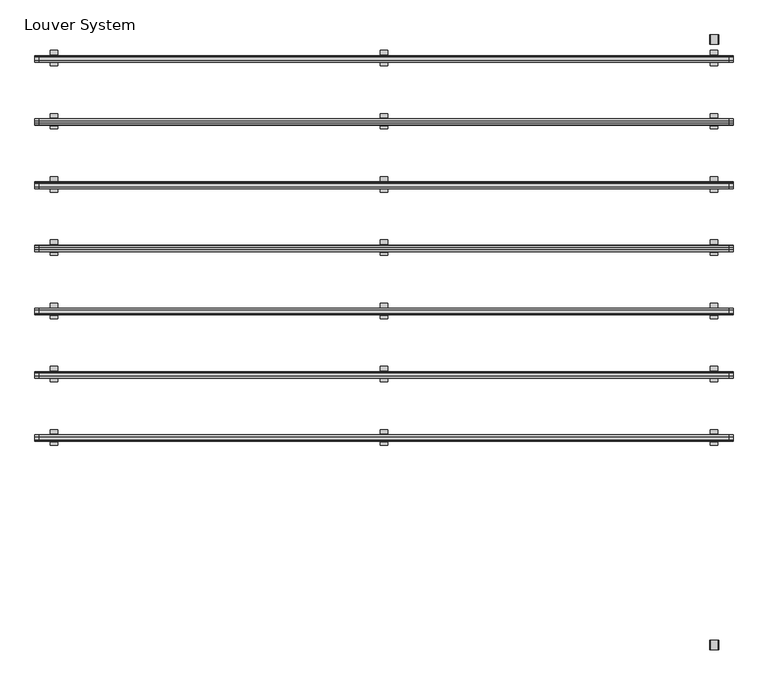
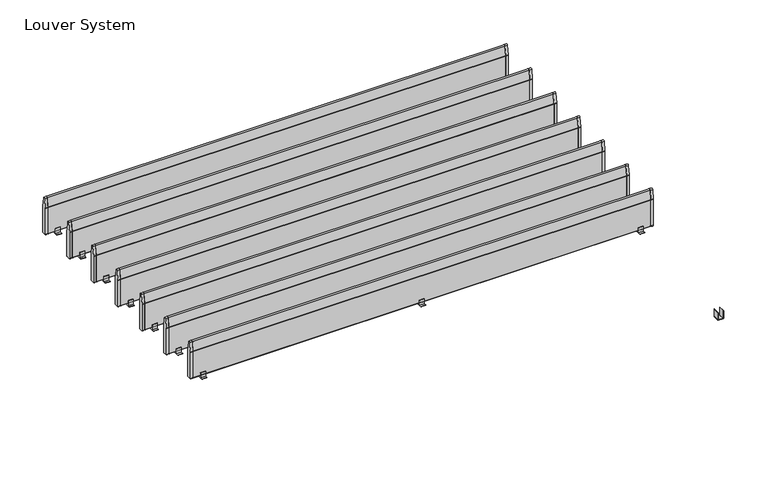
"""IFC4 building model written with IfcOpenShell, lengths in millimetres: geographic element geometry, Site_Danpal_AURA-Louvers : Louver System."""

from ifc_helpers import new_model, si_unit, point, frame, frame_2d, origin, place, context, project, spatial, polyline, circle_curve, trimmed, segment, composite_curve, outline, extrude, source, transform, mapped, element, save


def louver_system_eb25eb16(model_context):
    return source(origin(), model_context, "Body", "SweptSolid", [
        extrude(outline(polyline([(2118.4452933, 70.2377043), (2118.4452933, 112.7549354), (2119.8564736, 113.8288881), (2119.8564736, 87.8154527), (2154.9039104, 87.8154527), (2154.9039104, 114.4037008), (2156.6979773, 113.6522063), (2156.6979773, 73.9851105), (2156.6979773, 70.126602), (2182.4025997, 70.126602), (2182.4025997, 67.6050052), (2100.7242328, 67.6050052), (2100.7242328, 70.2377043), (2118.4452933, 70.2377043)])), frame((1730.0, 0.0, 0.0), z_axis=(1.0, 0.0, 0.0), x_axis=(0.0, 1.0, 0.0)), (0.0, 0.0, 1.0), 40.0),
        extrude(outline(polyline([(2118.4452933, 70.2377043), (2118.4452933, 112.7549354), (2119.8564736, 113.8288881), (2119.8564736, 87.8154527), (2154.9039104, 87.8154527), (2154.9039104, 114.4037008), (2156.6979773, 113.6522063), (2156.6979773, 73.9851105), (2156.6979773, 70.126602), (2182.4025997, 70.126602), (2182.4025997, 67.6050052), (2100.7242328, 67.6050052), (2100.7242328, 70.2377043), (2118.4452933, 70.2377043)])), frame((-20.0, 0.0, 0.0), z_axis=(1.0, 0.0, 0.0), x_axis=(0.0, 1.0, 0.0)), (0.0, 0.0, 1.0), 40.0),
        extrude(outline(polyline([(2118.4452933, 70.2377043), (2118.4452933, 112.7549354), (2119.8564736, 113.8288881), (2119.8564736, 87.8154527), (2154.9039104, 87.8154527), (2154.9039104, 114.4037008), (2156.6979773, 113.6522063), (2156.6979773, 73.9851105), (2156.6979773, 70.126602), (2182.4025997, 70.126602), (2182.4025997, 67.6050052), (2100.7242328, 67.6050052), (2100.7242328, 70.2377043), (2118.4452933, 70.2377043)])), frame((-1770.0, 0.0, 0.0), z_axis=(1.0, 0.0, 0.0), x_axis=(0.0, 1.0, 0.0)), (0.0, 0.0, 1.0), 40.0),
        extrude(outline(composite_curve([segment(polyline([(2154.9039104, 309.4391712), (2154.9039104, 90.2391712)]), True, "CONTINUOUS"), segment(trimmed(circle_curve(frame_2d((2152.480192, 90.2391712)), 2.4237184), [point((2154.9039104, 90.2391712))], [point((2152.480192, 87.8154527))], False, "CARTESIAN"), True, "CONTINUOUS"), segment(polyline([(2152.480192, 87.8154527), (2122.280192, 87.8154527)]), True, "CONTINUOUS"), segment(trimmed(circle_curve(frame_2d((2122.280192, 90.2391712)), 2.4237184), [point((2122.280192, 87.8154527))], [point((2119.8564736, 90.2391712))], False, "CARTESIAN"), True, "CONTINUOUS"), segment(polyline([(2119.8564736, 90.2391712), (2119.8564736, 309.4391712)]), True, "CONTINUOUS"), segment(trimmed(circle_curve(frame_2d((2152.480192, 309.4391712)), 32.6237184), [point((2119.8564736, 309.4391712))], [point((2120.1343539, 313.6881427))], False, "CARTESIAN"), True, "CONTINUOUS"), segment(polyline([(2120.1343539, 313.6881427), (2129.8214104, 387.4320979)]), True, "CONTINUOUS"), segment(trimmed(circle_curve(frame_2d((2137.380192, 386.4391712)), 7.6237184), [point((2129.8214104, 387.4320979))], [point((2144.9389736, 387.4320979))], False, "CARTESIAN"), True, "CONTINUOUS"), segment(polyline([(2144.9389736, 387.4320979), (2154.6260302, 313.6881427)]), True, "CONTINUOUS"), segment(trimmed(circle_curve(frame_2d((2122.280192, 309.4391712)), 32.6237184), [point((2154.6260302, 313.6881427))], [point((2154.9039104, 309.4391712))], False, "CARTESIAN"), True, "CONTINUOUS")], self_intersect=False)), frame((1829.9281148, 0.0, 0.0), z_axis=(1.0, 0.0, 0.0), x_axis=(0.0, 1.0, 0.0)), (0.0, 0.0, 1.0), 20.0718852),
        extrude(outline(composite_curve([segment(polyline([(2154.9039104, 309.4391712), (2154.9039104, 90.2391712)]), True, "CONTINUOUS"), segment(trimmed(circle_curve(frame_2d((2152.480192, 90.2391712)), 2.4237184), [point((2154.9039104, 90.2391712))], [point((2152.480192, 87.8154527))], False, "CARTESIAN"), True, "CONTINUOUS"), segment(polyline([(2152.480192, 87.8154527), (2122.280192, 87.8154527)]), True, "CONTINUOUS"), segment(trimmed(circle_curve(frame_2d((2122.280192, 90.2391712)), 2.4237184), [point((2122.280192, 87.8154527))], [point((2119.8564736, 90.2391712))], False, "CARTESIAN"), True, "CONTINUOUS"), segment(polyline([(2119.8564736, 90.2391712), (2119.8564736, 309.4391712)]), True, "CONTINUOUS"), segment(trimmed(circle_curve(frame_2d((2152.480192, 309.4391712)), 32.6237184), [point((2119.8564736, 309.4391712))], [point((2120.1343539, 313.6881427))], False, "CARTESIAN"), True, "CONTINUOUS"), segment(polyline([(2120.1343539, 313.6881427), (2129.8214104, 387.4320979)]), True, "CONTINUOUS"), segment(trimmed(circle_curve(frame_2d((2137.380192, 386.4391712)), 7.6237184), [point((2129.8214104, 387.4320979))], [point((2144.9389736, 387.4320979))], False, "CARTESIAN"), True, "CONTINUOUS"), segment(polyline([(2144.9389736, 387.4320979), (2154.6260302, 313.6881427)]), True, "CONTINUOUS"), segment(trimmed(circle_curve(frame_2d((2122.280192, 309.4391712)), 32.6237184), [point((2154.6260302, 313.6881427))], [point((2154.9039104, 309.4391712))], False, "CARTESIAN"), True, "CONTINUOUS")], self_intersect=False)), frame((-1850.0, 0.0, 0.0), z_axis=(1.0, 0.0, 0.0), x_axis=(0.0, 1.0, 0.0)), (0.0, 0.0, 1.0), 20.0),
        extrude(outline(composite_curve([segment(polyline([(2154.9039104, 309.4391712), (2154.9039104, 90.2391712)]), True, "CONTINUOUS"), segment(trimmed(circle_curve(frame_2d((2152.480192, 90.2391712)), 2.4237184), [point((2154.9039104, 90.2391712))], [point((2152.480192, 87.8154527))], False, "CARTESIAN"), True, "CONTINUOUS"), segment(polyline([(2152.480192, 87.8154527), (2122.280192, 87.8154527)]), True, "CONTINUOUS"), segment(trimmed(circle_curve(frame_2d((2122.280192, 90.2391712)), 2.4237184), [point((2122.280192, 87.8154527))], [point((2119.8564736, 90.2391712))], False, "CARTESIAN"), True, "CONTINUOUS"), segment(polyline([(2119.8564736, 90.2391712), (2119.8564736, 309.4391712)]), True, "CONTINUOUS"), segment(trimmed(circle_curve(frame_2d((2152.480192, 309.4391712)), 32.6237184), [point((2119.8564736, 309.4391712))], [point((2120.1343539, 313.6881427))], False, "CARTESIAN"), True, "CONTINUOUS"), segment(polyline([(2120.1343539, 313.6881427), (2129.8214104, 387.4320979)]), True, "CONTINUOUS"), segment(trimmed(circle_curve(frame_2d((2137.380192, 386.4391712)), 7.6237184), [point((2129.8214104, 387.4320979))], [point((2144.9389736, 387.4320979))], False, "CARTESIAN"), True, "CONTINUOUS"), segment(polyline([(2144.9389736, 387.4320979), (2154.6260302, 313.6881427)]), True, "CONTINUOUS"), segment(trimmed(circle_curve(frame_2d((2122.280192, 309.4391712)), 32.6237184), [point((2154.6260302, 313.6881427))], [point((2154.9039104, 309.4391712))], False, "CARTESIAN"), True, "CONTINUOUS")], self_intersect=False)), frame((-1830.0, 0.0, 0.0), z_axis=(1.0, 0.0, 0.0), x_axis=(0.0, 1.0, 0.0)), (0.0, 0.0, 1.0), 3659.9281148),
        extrude(outline(polyline([(1783.4452933, 70.2377043), (1783.4452933, 112.7549354), (1784.8564736, 113.8288881), (1784.8564736, 87.8154527), (1819.9039104, 87.8154527), (1819.9039104, 114.4037008), (1821.6979773, 113.6522063), (1821.6979773, 73.9851105), (1821.6979773, 70.126602), (1847.4025997, 70.126602), (1847.4025997, 67.6050052), (1765.7242328, 67.6050052), (1765.7242328, 70.2377043), (1783.4452933, 70.2377043)])), frame((1730.0, 0.0, 0.0), z_axis=(1.0, 0.0, 0.0), x_axis=(0.0, 1.0, 0.0)), (0.0, 0.0, 1.0), 40.0),
        extrude(outline(polyline([(1783.4452933, 70.2377043), (1783.4452933, 112.7549354), (1784.8564736, 113.8288881), (1784.8564736, 87.8154527), (1819.9039104, 87.8154527), (1819.9039104, 114.4037008), (1821.6979773, 113.6522063), (1821.6979773, 73.9851105), (1821.6979773, 70.126602), (1847.4025997, 70.126602), (1847.4025997, 67.6050052), (1765.7242328, 67.6050052), (1765.7242328, 70.2377043), (1783.4452933, 70.2377043)])), frame((-20.0, 0.0, 0.0), z_axis=(1.0, 0.0, 0.0), x_axis=(0.0, 1.0, 0.0)), (0.0, 0.0, 1.0), 40.0),
        extrude(outline(polyline([(1783.4452933, 70.2377043), (1783.4452933, 112.7549354), (1784.8564736, 113.8288881), (1784.8564736, 87.8154527), (1819.9039104, 87.8154527), (1819.9039104, 114.4037008), (1821.6979773, 113.6522063), (1821.6979773, 73.9851105), (1821.6979773, 70.126602), (1847.4025997, 70.126602), (1847.4025997, 67.6050052), (1765.7242328, 67.6050052), (1765.7242328, 70.2377043), (1783.4452933, 70.2377043)])), frame((-1770.0, 0.0, 0.0), z_axis=(1.0, 0.0, 0.0), x_axis=(0.0, 1.0, 0.0)), (0.0, 0.0, 1.0), 40.0),
        extrude(outline(composite_curve([segment(polyline([(1819.9039104, 309.4391712), (1819.9039104, 90.2391712)]), True, "CONTINUOUS"), segment(trimmed(circle_curve(frame_2d((1817.480192, 90.2391712)), 2.4237184), [point((1819.9039104, 90.2391712))], [point((1817.480192, 87.8154527))], False, "CARTESIAN"), True, "CONTINUOUS"), segment(polyline([(1817.480192, 87.8154527), (1787.280192, 87.8154527)]), True, "CONTINUOUS"), segment(trimmed(circle_curve(frame_2d((1787.280192, 90.2391712)), 2.4237184), [point((1787.280192, 87.8154527))], [point((1784.8564736, 90.2391712))], False, "CARTESIAN"), True, "CONTINUOUS"), segment(polyline([(1784.8564736, 90.2391712), (1784.8564736, 309.4391712)]), True, "CONTINUOUS"), segment(trimmed(circle_curve(frame_2d((1817.480192, 309.4391712)), 32.6237184), [point((1784.8564736, 309.4391712))], [point((1785.1343539, 313.6881427))], False, "CARTESIAN"), True, "CONTINUOUS"), segment(polyline([(1785.1343539, 313.6881427), (1794.8214104, 387.4320979)]), True, "CONTINUOUS"), segment(trimmed(circle_curve(frame_2d((1802.380192, 386.4391712)), 7.6237184), [point((1794.8214104, 387.4320979))], [point((1809.9389736, 387.4320979))], False, "CARTESIAN"), True, "CONTINUOUS"), segment(polyline([(1809.9389736, 387.4320979), (1819.6260302, 313.6881427)]), True, "CONTINUOUS"), segment(trimmed(circle_curve(frame_2d((1787.280192, 309.4391712)), 32.6237184), [point((1819.6260302, 313.6881427))], [point((1819.9039104, 309.4391712))], False, "CARTESIAN"), True, "CONTINUOUS")], self_intersect=False)), frame((1829.9281148, 0.0, 0.0), z_axis=(1.0, 0.0, 0.0), x_axis=(0.0, 1.0, 0.0)), (0.0, 0.0, 1.0), 20.0718852),
        extrude(outline(composite_curve([segment(polyline([(1819.9039104, 309.4391712), (1819.9039104, 90.2391712)]), True, "CONTINUOUS"), segment(trimmed(circle_curve(frame_2d((1817.480192, 90.2391712)), 2.4237184), [point((1819.9039104, 90.2391712))], [point((1817.480192, 87.8154527))], False, "CARTESIAN"), True, "CONTINUOUS"), segment(polyline([(1817.480192, 87.8154527), (1787.280192, 87.8154527)]), True, "CONTINUOUS"), segment(trimmed(circle_curve(frame_2d((1787.280192, 90.2391712)), 2.4237184), [point((1787.280192, 87.8154527))], [point((1784.8564736, 90.2391712))], False, "CARTESIAN"), True, "CONTINUOUS"), segment(polyline([(1784.8564736, 90.2391712), (1784.8564736, 309.4391712)]), True, "CONTINUOUS"), segment(trimmed(circle_curve(frame_2d((1817.480192, 309.4391712)), 32.6237184), [point((1784.8564736, 309.4391712))], [point((1785.1343539, 313.6881427))], False, "CARTESIAN"), True, "CONTINUOUS"), segment(polyline([(1785.1343539, 313.6881427), (1794.8214104, 387.4320979)]), True, "CONTINUOUS"), segment(trimmed(circle_curve(frame_2d((1802.380192, 386.4391712)), 7.6237184), [point((1794.8214104, 387.4320979))], [point((1809.9389736, 387.4320979))], False, "CARTESIAN"), True, "CONTINUOUS"), segment(polyline([(1809.9389736, 387.4320979), (1819.6260302, 313.6881427)]), True, "CONTINUOUS"), segment(trimmed(circle_curve(frame_2d((1787.280192, 309.4391712)), 32.6237184), [point((1819.6260302, 313.6881427))], [point((1819.9039104, 309.4391712))], False, "CARTESIAN"), True, "CONTINUOUS")], self_intersect=False)), frame((-1850.0, 0.0, 0.0), z_axis=(1.0, 0.0, 0.0), x_axis=(0.0, 1.0, 0.0)), (0.0, 0.0, 1.0), 20.0),
        extrude(outline(composite_curve([segment(polyline([(1819.9039104, 309.4391712), (1819.9039104, 90.2391712)]), True, "CONTINUOUS"), segment(trimmed(circle_curve(frame_2d((1817.480192, 90.2391712)), 2.4237184), [point((1819.9039104, 90.2391712))], [point((1817.480192, 87.8154527))], False, "CARTESIAN"), True, "CONTINUOUS"), segment(polyline([(1817.480192, 87.8154527), (1787.280192, 87.8154527)]), True, "CONTINUOUS"), segment(trimmed(circle_curve(frame_2d((1787.280192, 90.2391712)), 2.4237184), [point((1787.280192, 87.8154527))], [point((1784.8564736, 90.2391712))], False, "CARTESIAN"), True, "CONTINUOUS"), segment(polyline([(1784.8564736, 90.2391712), (1784.8564736, 309.4391712)]), True, "CONTINUOUS"), segment(trimmed(circle_curve(frame_2d((1817.480192, 309.4391712)), 32.6237184), [point((1784.8564736, 309.4391712))], [point((1785.1343539, 313.6881427))], False, "CARTESIAN"), True, "CONTINUOUS"), segment(polyline([(1785.1343539, 313.6881427), (1794.8214104, 387.4320979)]), True, "CONTINUOUS"), segment(trimmed(circle_curve(frame_2d((1802.380192, 386.4391712)), 7.6237184), [point((1794.8214104, 387.4320979))], [point((1809.9389736, 387.4320979))], False, "CARTESIAN"), True, "CONTINUOUS"), segment(polyline([(1809.9389736, 387.4320979), (1819.6260302, 313.6881427)]), True, "CONTINUOUS"), segment(trimmed(circle_curve(frame_2d((1787.280192, 309.4391712)), 32.6237184), [point((1819.6260302, 313.6881427))], [point((1819.9039104, 309.4391712))], False, "CARTESIAN"), True, "CONTINUOUS")], self_intersect=False)), frame((-1830.0, 0.0, 0.0), z_axis=(1.0, 0.0, 0.0), x_axis=(0.0, 1.0, 0.0)), (0.0, 0.0, 1.0), 3659.9281148),
        extrude(outline(polyline([(1448.4452933, 70.2377043), (1448.4452933, 112.7549354), (1449.8564736, 113.8288881), (1449.8564736, 87.8154527), (1484.9039104, 87.8154527), (1484.9039104, 114.4037008), (1486.6979773, 113.6522063), (1486.6979773, 73.9851105), (1486.6979773, 70.126602), (1512.4025997, 70.126602), (1512.4025997, 67.6050052), (1430.7242328, 67.6050052), (1430.7242328, 70.2377043), (1448.4452933, 70.2377043)])), frame((1730.0, 0.0, 0.0), z_axis=(1.0, 0.0, 0.0), x_axis=(0.0, 1.0, 0.0)), (0.0, 0.0, 1.0), 40.0),
        extrude(outline(polyline([(1448.4452933, 70.2377043), (1448.4452933, 112.7549354), (1449.8564736, 113.8288881), (1449.8564736, 87.8154527), (1484.9039104, 87.8154527), (1484.9039104, 114.4037008), (1486.6979773, 113.6522063), (1486.6979773, 73.9851105), (1486.6979773, 70.126602), (1512.4025997, 70.126602), (1512.4025997, 67.6050052), (1430.7242328, 67.6050052), (1430.7242328, 70.2377043), (1448.4452933, 70.2377043)])), frame((-20.0, 0.0, 0.0), z_axis=(1.0, 0.0, 0.0), x_axis=(0.0, 1.0, 0.0)), (0.0, 0.0, 1.0), 40.0),
        extrude(outline(polyline([(1448.4452933, 70.2377043), (1448.4452933, 112.7549354), (1449.8564736, 113.8288881), (1449.8564736, 87.8154527), (1484.9039104, 87.8154527), (1484.9039104, 114.4037008), (1486.6979773, 113.6522063), (1486.6979773, 73.9851105), (1486.6979773, 70.126602), (1512.4025997, 70.126602), (1512.4025997, 67.6050052), (1430.7242328, 67.6050052), (1430.7242328, 70.2377043), (1448.4452933, 70.2377043)])), frame((-1770.0, 0.0, 0.0), z_axis=(1.0, 0.0, 0.0), x_axis=(0.0, 1.0, 0.0)), (0.0, 0.0, 1.0), 40.0),
        extrude(outline(composite_curve([segment(polyline([(1484.9039104, 309.4391712), (1484.9039104, 90.2391712)]), True, "CONTINUOUS"), segment(trimmed(circle_curve(frame_2d((1482.480192, 90.2391712)), 2.4237184), [point((1484.9039104, 90.2391712))], [point((1482.480192, 87.8154527))], False, "CARTESIAN"), True, "CONTINUOUS"), segment(polyline([(1482.480192, 87.8154527), (1452.280192, 87.8154527)]), True, "CONTINUOUS"), segment(trimmed(circle_curve(frame_2d((1452.280192, 90.2391712)), 2.4237184), [point((1452.280192, 87.8154527))], [point((1449.8564736, 90.2391712))], False, "CARTESIAN"), True, "CONTINUOUS"), segment(polyline([(1449.8564736, 90.2391712), (1449.8564736, 309.4391712)]), True, "CONTINUOUS"), segment(trimmed(circle_curve(frame_2d((1482.480192, 309.4391712)), 32.6237184), [point((1449.8564736, 309.4391712))], [point((1450.1343539, 313.6881427))], False, "CARTESIAN"), True, "CONTINUOUS"), segment(polyline([(1450.1343539, 313.6881427), (1459.8214104, 387.4320979)]), True, "CONTINUOUS"), segment(trimmed(circle_curve(frame_2d((1467.380192, 386.4391712)), 7.6237184), [point((1459.8214104, 387.4320979))], [point((1474.9389736, 387.4320979))], False, "CARTESIAN"), True, "CONTINUOUS"), segment(polyline([(1474.9389736, 387.4320979), (1484.6260302, 313.6881427)]), True, "CONTINUOUS"), segment(trimmed(circle_curve(frame_2d((1452.280192, 309.4391712)), 32.6237184), [point((1484.6260302, 313.6881427))], [point((1484.9039104, 309.4391712))], False, "CARTESIAN"), True, "CONTINUOUS")], self_intersect=False)), frame((1829.9281148, 0.0, 0.0), z_axis=(1.0, 0.0, 0.0), x_axis=(0.0, 1.0, 0.0)), (0.0, 0.0, 1.0), 20.0718852),
        extrude(outline(composite_curve([segment(polyline([(1484.9039104, 309.4391712), (1484.9039104, 90.2391712)]), True, "CONTINUOUS"), segment(trimmed(circle_curve(frame_2d((1482.480192, 90.2391712)), 2.4237184), [point((1484.9039104, 90.2391712))], [point((1482.480192, 87.8154527))], False, "CARTESIAN"), True, "CONTINUOUS"), segment(polyline([(1482.480192, 87.8154527), (1452.280192, 87.8154527)]), True, "CONTINUOUS"), segment(trimmed(circle_curve(frame_2d((1452.280192, 90.2391712)), 2.4237184), [point((1452.280192, 87.8154527))], [point((1449.8564736, 90.2391712))], False, "CARTESIAN"), True, "CONTINUOUS"), segment(polyline([(1449.8564736, 90.2391712), (1449.8564736, 309.4391712)]), True, "CONTINUOUS"), segment(trimmed(circle_curve(frame_2d((1482.480192, 309.4391712)), 32.6237184), [point((1449.8564736, 309.4391712))], [point((1450.1343539, 313.6881427))], False, "CARTESIAN"), True, "CONTINUOUS"), segment(polyline([(1450.1343539, 313.6881427), (1459.8214104, 387.4320979)]), True, "CONTINUOUS"), segment(trimmed(circle_curve(frame_2d((1467.380192, 386.4391712)), 7.6237184), [point((1459.8214104, 387.4320979))], [point((1474.9389736, 387.4320979))], False, "CARTESIAN"), True, "CONTINUOUS"), segment(polyline([(1474.9389736, 387.4320979), (1484.6260302, 313.6881427)]), True, "CONTINUOUS"), segment(trimmed(circle_curve(frame_2d((1452.280192, 309.4391712)), 32.6237184), [point((1484.6260302, 313.6881427))], [point((1484.9039104, 309.4391712))], False, "CARTESIAN"), True, "CONTINUOUS")], self_intersect=False)), frame((-1850.0, 0.0, 0.0), z_axis=(1.0, 0.0, 0.0), x_axis=(0.0, 1.0, 0.0)), (0.0, 0.0, 1.0), 20.0),
        extrude(outline(composite_curve([segment(polyline([(1484.9039104, 309.4391712), (1484.9039104, 90.2391712)]), True, "CONTINUOUS"), segment(trimmed(circle_curve(frame_2d((1482.480192, 90.2391712)), 2.4237184), [point((1484.9039104, 90.2391712))], [point((1482.480192, 87.8154527))], False, "CARTESIAN"), True, "CONTINUOUS"), segment(polyline([(1482.480192, 87.8154527), (1452.280192, 87.8154527)]), True, "CONTINUOUS"), segment(trimmed(circle_curve(frame_2d((1452.280192, 90.2391712)), 2.4237184), [point((1452.280192, 87.8154527))], [point((1449.8564736, 90.2391712))], False, "CARTESIAN"), True, "CONTINUOUS"), segment(polyline([(1449.8564736, 90.2391712), (1449.8564736, 309.4391712)]), True, "CONTINUOUS"), segment(trimmed(circle_curve(frame_2d((1482.480192, 309.4391712)), 32.6237184), [point((1449.8564736, 309.4391712))], [point((1450.1343539, 313.6881427))], False, "CARTESIAN"), True, "CONTINUOUS"), segment(polyline([(1450.1343539, 313.6881427), (1459.8214104, 387.4320979)]), True, "CONTINUOUS"), segment(trimmed(circle_curve(frame_2d((1467.380192, 386.4391712)), 7.6237184), [point((1459.8214104, 387.4320979))], [point((1474.9389736, 387.4320979))], False, "CARTESIAN"), True, "CONTINUOUS"), segment(polyline([(1474.9389736, 387.4320979), (1484.6260302, 313.6881427)]), True, "CONTINUOUS"), segment(trimmed(circle_curve(frame_2d((1452.280192, 309.4391712)), 32.6237184), [point((1484.6260302, 313.6881427))], [point((1484.9039104, 309.4391712))], False, "CARTESIAN"), True, "CONTINUOUS")], self_intersect=False)), frame((-1830.0, 0.0, 0.0), z_axis=(1.0, 0.0, 0.0), x_axis=(0.0, 1.0, 0.0)), (0.0, 0.0, 1.0), 3659.9281148),
        extrude(outline(polyline([(1113.4452933, 70.2377043), (1113.4452933, 112.7549354), (1114.8564736, 113.8288881), (1114.8564736, 87.8154527), (1149.9039104, 87.8154527), (1149.9039104, 114.4037008), (1151.6979773, 113.6522063), (1151.6979773, 73.9851105), (1151.6979773, 70.126602), (1177.4025997, 70.126602), (1177.4025997, 67.6050052), (1095.7242328, 67.6050052), (1095.7242328, 70.2377043), (1113.4452933, 70.2377043)])), frame((1730.0, 0.0, 0.0), z_axis=(1.0, 0.0, 0.0), x_axis=(0.0, 1.0, 0.0)), (0.0, 0.0, 1.0), 40.0),
        extrude(outline(polyline([(1113.4452933, 70.2377043), (1113.4452933, 112.7549354), (1114.8564736, 113.8288881), (1114.8564736, 87.8154527), (1149.9039104, 87.8154527), (1149.9039104, 114.4037008), (1151.6979773, 113.6522063), (1151.6979773, 73.9851105), (1151.6979773, 70.126602), (1177.4025997, 70.126602), (1177.4025997, 67.6050052), (1095.7242328, 67.6050052), (1095.7242328, 70.2377043), (1113.4452933, 70.2377043)])), frame((-20.0, 0.0, 0.0), z_axis=(1.0, 0.0, 0.0), x_axis=(0.0, 1.0, 0.0)), (0.0, 0.0, 1.0), 40.0),
        extrude(outline(polyline([(1113.4452933, 70.2377043), (1113.4452933, 112.7549354), (1114.8564736, 113.8288881), (1114.8564736, 87.8154527), (1149.9039104, 87.8154527), (1149.9039104, 114.4037008), (1151.6979773, 113.6522063), (1151.6979773, 73.9851105), (1151.6979773, 70.126602), (1177.4025997, 70.126602), (1177.4025997, 67.6050052), (1095.7242328, 67.6050052), (1095.7242328, 70.2377043), (1113.4452933, 70.2377043)])), frame((-1770.0, 0.0, 0.0), z_axis=(1.0, 0.0, 0.0), x_axis=(0.0, 1.0, 0.0)), (0.0, 0.0, 1.0), 40.0),
        extrude(outline(composite_curve([segment(polyline([(1149.9039104, 309.4391712), (1149.9039104, 90.2391712)]), True, "CONTINUOUS"), segment(trimmed(circle_curve(frame_2d((1147.480192, 90.2391712)), 2.4237184), [point((1149.9039104, 90.2391712))], [point((1147.480192, 87.8154527))], False, "CARTESIAN"), True, "CONTINUOUS"), segment(polyline([(1147.480192, 87.8154527), (1117.280192, 87.8154527)]), True, "CONTINUOUS"), segment(trimmed(circle_curve(frame_2d((1117.280192, 90.2391712)), 2.4237184), [point((1117.280192, 87.8154527))], [point((1114.8564736, 90.2391712))], False, "CARTESIAN"), True, "CONTINUOUS"), segment(polyline([(1114.8564736, 90.2391712), (1114.8564736, 309.4391712)]), True, "CONTINUOUS"), segment(trimmed(circle_curve(frame_2d((1147.480192, 309.4391712)), 32.6237184), [point((1114.8564736, 309.4391712))], [point((1115.1343539, 313.6881427))], False, "CARTESIAN"), True, "CONTINUOUS"), segment(polyline([(1115.1343539, 313.6881427), (1124.8214104, 387.4320979)]), True, "CONTINUOUS"), segment(trimmed(circle_curve(frame_2d((1132.380192, 386.4391712)), 7.6237184), [point((1124.8214104, 387.4320979))], [point((1139.9389736, 387.4320979))], False, "CARTESIAN"), True, "CONTINUOUS"), segment(polyline([(1139.9389736, 387.4320979), (1149.6260302, 313.6881427)]), True, "CONTINUOUS"), segment(trimmed(circle_curve(frame_2d((1117.280192, 309.4391712)), 32.6237184), [point((1149.6260302, 313.6881427))], [point((1149.9039104, 309.4391712))], False, "CARTESIAN"), True, "CONTINUOUS")], self_intersect=False)), frame((1829.9281148, 0.0, 0.0), z_axis=(1.0, 0.0, 0.0), x_axis=(0.0, 1.0, 0.0)), (0.0, 0.0, 1.0), 20.0718852),
        extrude(outline(composite_curve([segment(polyline([(1149.9039104, 309.4391712), (1149.9039104, 90.2391712)]), True, "CONTINUOUS"), segment(trimmed(circle_curve(frame_2d((1147.480192, 90.2391712)), 2.4237184), [point((1149.9039104, 90.2391712))], [point((1147.480192, 87.8154527))], False, "CARTESIAN"), True, "CONTINUOUS"), segment(polyline([(1147.480192, 87.8154527), (1117.280192, 87.8154527)]), True, "CONTINUOUS"), segment(trimmed(circle_curve(frame_2d((1117.280192, 90.2391712)), 2.4237184), [point((1117.280192, 87.8154527))], [point((1114.8564736, 90.2391712))], False, "CARTESIAN"), True, "CONTINUOUS"), segment(polyline([(1114.8564736, 90.2391712), (1114.8564736, 309.4391712)]), True, "CONTINUOUS"), segment(trimmed(circle_curve(frame_2d((1147.480192, 309.4391712)), 32.6237184), [point((1114.8564736, 309.4391712))], [point((1115.1343539, 313.6881427))], False, "CARTESIAN"), True, "CONTINUOUS"), segment(polyline([(1115.1343539, 313.6881427), (1124.8214104, 387.4320979)]), True, "CONTINUOUS"), segment(trimmed(circle_curve(frame_2d((1132.380192, 386.4391712)), 7.6237184), [point((1124.8214104, 387.4320979))], [point((1139.9389736, 387.4320979))], False, "CARTESIAN"), True, "CONTINUOUS"), segment(polyline([(1139.9389736, 387.4320979), (1149.6260302, 313.6881427)]), True, "CONTINUOUS"), segment(trimmed(circle_curve(frame_2d((1117.280192, 309.4391712)), 32.6237184), [point((1149.6260302, 313.6881427))], [point((1149.9039104, 309.4391712))], False, "CARTESIAN"), True, "CONTINUOUS")], self_intersect=False)), frame((-1850.0, 0.0, 0.0), z_axis=(1.0, 0.0, 0.0), x_axis=(0.0, 1.0, 0.0)), (0.0, 0.0, 1.0), 20.0),
        extrude(outline(composite_curve([segment(polyline([(1149.9039104, 309.4391712), (1149.9039104, 90.2391712)]), True, "CONTINUOUS"), segment(trimmed(circle_curve(frame_2d((1147.480192, 90.2391712)), 2.4237184), [point((1149.9039104, 90.2391712))], [point((1147.480192, 87.8154527))], False, "CARTESIAN"), True, "CONTINUOUS"), segment(polyline([(1147.480192, 87.8154527), (1117.280192, 87.8154527)]), True, "CONTINUOUS"), segment(trimmed(circle_curve(frame_2d((1117.280192, 90.2391712)), 2.4237184), [point((1117.280192, 87.8154527))], [point((1114.8564736, 90.2391712))], False, "CARTESIAN"), True, "CONTINUOUS"), segment(polyline([(1114.8564736, 90.2391712), (1114.8564736, 309.4391712)]), True, "CONTINUOUS"), segment(trimmed(circle_curve(frame_2d((1147.480192, 309.4391712)), 32.6237184), [point((1114.8564736, 309.4391712))], [point((1115.1343539, 313.6881427))], False, "CARTESIAN"), True, "CONTINUOUS"), segment(polyline([(1115.1343539, 313.6881427), (1124.8214104, 387.4320979)]), True, "CONTINUOUS"), segment(trimmed(circle_curve(frame_2d((1132.380192, 386.4391712)), 7.6237184), [point((1124.8214104, 387.4320979))], [point((1139.9389736, 387.4320979))], False, "CARTESIAN"), True, "CONTINUOUS"), segment(polyline([(1139.9389736, 387.4320979), (1149.6260302, 313.6881427)]), True, "CONTINUOUS"), segment(trimmed(circle_curve(frame_2d((1117.280192, 309.4391712)), 32.6237184), [point((1149.6260302, 313.6881427))], [point((1149.9039104, 309.4391712))], False, "CARTESIAN"), True, "CONTINUOUS")], self_intersect=False)), frame((-1830.0, 0.0, 0.0), z_axis=(1.0, 0.0, 0.0), x_axis=(0.0, 1.0, 0.0)), (0.0, 0.0, 1.0), 3659.9281148),
        extrude(outline(polyline([(778.4452933, 70.2377043), (778.4452933, 112.7549354), (779.8564736, 113.8288881), (779.8564736, 87.8154527), (814.9039104, 87.8154527), (814.9039104, 114.4037008), (816.6979773, 113.6522063), (816.6979773, 73.9851105), (816.6979773, 70.126602), (842.4025997, 70.126602), (842.4025997, 67.6050052), (760.7242328, 67.6050052), (760.7242328, 70.2377043), (778.4452933, 70.2377043)])), frame((1730.0, 0.0, 0.0), z_axis=(1.0, 0.0, 0.0), x_axis=(0.0, 1.0, 0.0)), (0.0, 0.0, 1.0), 40.0),
        extrude(outline(polyline([(778.4452933, 70.2377043), (778.4452933, 112.7549354), (779.8564736, 113.8288881), (779.8564736, 87.8154527), (814.9039104, 87.8154527), (814.9039104, 114.4037008), (816.6979773, 113.6522063), (816.6979773, 73.9851105), (816.6979773, 70.126602), (842.4025997, 70.126602), (842.4025997, 67.6050052), (760.7242328, 67.6050052), (760.7242328, 70.2377043), (778.4452933, 70.2377043)])), frame((-20.0, 0.0, 0.0), z_axis=(1.0, 0.0, 0.0), x_axis=(0.0, 1.0, 0.0)), (0.0, 0.0, 1.0), 40.0),
        extrude(outline(polyline([(778.4452933, 70.2377043), (778.4452933, 112.7549354), (779.8564736, 113.8288881), (779.8564736, 87.8154527), (814.9039104, 87.8154527), (814.9039104, 114.4037008), (816.6979773, 113.6522063), (816.6979773, 73.9851105), (816.6979773, 70.126602), (842.4025997, 70.126602), (842.4025997, 67.6050052), (760.7242328, 67.6050052), (760.7242328, 70.2377043), (778.4452933, 70.2377043)])), frame((-1770.0, 0.0, 0.0), z_axis=(1.0, 0.0, 0.0), x_axis=(0.0, 1.0, 0.0)), (0.0, 0.0, 1.0), 40.0),
        extrude(outline(composite_curve([segment(polyline([(814.9039104, 309.4391712), (814.9039104, 90.2391712)]), True, "CONTINUOUS"), segment(trimmed(circle_curve(frame_2d((812.480192, 90.2391712)), 2.4237184), [point((814.9039104, 90.2391712))], [point((812.480192, 87.8154527))], False, "CARTESIAN"), True, "CONTINUOUS"), segment(polyline([(812.480192, 87.8154527), (782.280192, 87.8154527)]), True, "CONTINUOUS"), segment(trimmed(circle_curve(frame_2d((782.280192, 90.2391712)), 2.4237184), [point((782.280192, 87.8154527))], [point((779.8564736, 90.2391712))], False, "CARTESIAN"), True, "CONTINUOUS"), segment(polyline([(779.8564736, 90.2391712), (779.8564736, 309.4391712)]), True, "CONTINUOUS"), segment(trimmed(circle_curve(frame_2d((812.480192, 309.4391712)), 32.6237184), [point((779.8564736, 309.4391712))], [point((780.1343539, 313.6881427))], False, "CARTESIAN"), True, "CONTINUOUS"), segment(polyline([(780.1343539, 313.6881427), (789.8214104, 387.4320979)]), True, "CONTINUOUS"), segment(trimmed(circle_curve(frame_2d((797.380192, 386.4391712)), 7.6237184), [point((789.8214104, 387.4320979))], [point((804.9389736, 387.4320979))], False, "CARTESIAN"), True, "CONTINUOUS"), segment(polyline([(804.9389736, 387.4320979), (814.6260302, 313.6881427)]), True, "CONTINUOUS"), segment(trimmed(circle_curve(frame_2d((782.280192, 309.4391712)), 32.6237184), [point((814.6260302, 313.6881427))], [point((814.9039104, 309.4391712))], False, "CARTESIAN"), True, "CONTINUOUS")], self_intersect=False)), frame((1829.9281148, 0.0, 0.0), z_axis=(1.0, 0.0, 0.0), x_axis=(0.0, 1.0, 0.0)), (0.0, 0.0, 1.0), 20.0718852),
        extrude(outline(composite_curve([segment(polyline([(814.9039104, 309.4391712), (814.9039104, 90.2391712)]), True, "CONTINUOUS"), segment(trimmed(circle_curve(frame_2d((812.480192, 90.2391712)), 2.4237184), [point((814.9039104, 90.2391712))], [point((812.480192, 87.8154527))], False, "CARTESIAN"), True, "CONTINUOUS"), segment(polyline([(812.480192, 87.8154527), (782.280192, 87.8154527)]), True, "CONTINUOUS"), segment(trimmed(circle_curve(frame_2d((782.280192, 90.2391712)), 2.4237184), [point((782.280192, 87.8154527))], [point((779.8564736, 90.2391712))], False, "CARTESIAN"), True, "CONTINUOUS"), segment(polyline([(779.8564736, 90.2391712), (779.8564736, 309.4391712)]), True, "CONTINUOUS"), segment(trimmed(circle_curve(frame_2d((812.480192, 309.4391712)), 32.6237184), [point((779.8564736, 309.4391712))], [point((780.1343539, 313.6881427))], False, "CARTESIAN"), True, "CONTINUOUS"), segment(polyline([(780.1343539, 313.6881427), (789.8214104, 387.4320979)]), True, "CONTINUOUS"), segment(trimmed(circle_curve(frame_2d((797.380192, 386.4391712)), 7.6237184), [point((789.8214104, 387.4320979))], [point((804.9389736, 387.4320979))], False, "CARTESIAN"), True, "CONTINUOUS"), segment(polyline([(804.9389736, 387.4320979), (814.6260302, 313.6881427)]), True, "CONTINUOUS"), segment(trimmed(circle_curve(frame_2d((782.280192, 309.4391712)), 32.6237184), [point((814.6260302, 313.6881427))], [point((814.9039104, 309.4391712))], False, "CARTESIAN"), True, "CONTINUOUS")], self_intersect=False)), frame((-1850.0, 0.0, 0.0), z_axis=(1.0, 0.0, 0.0), x_axis=(0.0, 1.0, 0.0)), (0.0, 0.0, 1.0), 20.0),
        extrude(outline(composite_curve([segment(polyline([(814.9039104, 309.4391712), (814.9039104, 90.2391712)]), True, "CONTINUOUS"), segment(trimmed(circle_curve(frame_2d((812.480192, 90.2391712)), 2.4237184), [point((814.9039104, 90.2391712))], [point((812.480192, 87.8154527))], False, "CARTESIAN"), True, "CONTINUOUS"), segment(polyline([(812.480192, 87.8154527), (782.280192, 87.8154527)]), True, "CONTINUOUS"), segment(trimmed(circle_curve(frame_2d((782.280192, 90.2391712)), 2.4237184), [point((782.280192, 87.8154527))], [point((779.8564736, 90.2391712))], False, "CARTESIAN"), True, "CONTINUOUS"), segment(polyline([(779.8564736, 90.2391712), (779.8564736, 309.4391712)]), True, "CONTINUOUS"), segment(trimmed(circle_curve(frame_2d((812.480192, 309.4391712)), 32.6237184), [point((779.8564736, 309.4391712))], [point((780.1343539, 313.6881427))], False, "CARTESIAN"), True, "CONTINUOUS"), segment(polyline([(780.1343539, 313.6881427), (789.8214104, 387.4320979)]), True, "CONTINUOUS"), segment(trimmed(circle_curve(frame_2d((797.380192, 386.4391712)), 7.6237184), [point((789.8214104, 387.4320979))], [point((804.9389736, 387.4320979))], False, "CARTESIAN"), True, "CONTINUOUS"), segment(polyline([(804.9389736, 387.4320979), (814.6260302, 313.6881427)]), True, "CONTINUOUS"), segment(trimmed(circle_curve(frame_2d((782.280192, 309.4391712)), 32.6237184), [point((814.6260302, 313.6881427))], [point((814.9039104, 309.4391712))], False, "CARTESIAN"), True, "CONTINUOUS")], self_intersect=False)), frame((-1830.0, 0.0, 0.0), z_axis=(1.0, 0.0, 0.0), x_axis=(0.0, 1.0, 0.0)), (0.0, 0.0, 1.0), 3659.9281148),
        extrude(outline(polyline([(443.4452933, 70.2377043), (443.4452933, 112.7549354), (444.8564736, 113.8288881), (444.8564736, 87.8154527), (479.9039104, 87.8154527), (479.9039104, 114.4037008), (481.6979773, 113.6522063), (481.6979773, 73.9851105), (481.6979773, 70.126602), (507.4025997, 70.126602), (507.4025997, 67.6050052), (425.7242328, 67.6050052), (425.7242328, 70.2377043), (443.4452933, 70.2377043)])), frame((1730.0, 0.0, 0.0), z_axis=(1.0, 0.0, 0.0), x_axis=(0.0, 1.0, 0.0)), (0.0, 0.0, 1.0), 40.0),
        extrude(outline(polyline([(443.4452933, 70.2377043), (443.4452933, 112.7549354), (444.8564736, 113.8288881), (444.8564736, 87.8154527), (479.9039104, 87.8154527), (479.9039104, 114.4037008), (481.6979773, 113.6522063), (481.6979773, 73.9851105), (481.6979773, 70.126602), (507.4025997, 70.126602), (507.4025997, 67.6050052), (425.7242328, 67.6050052), (425.7242328, 70.2377043), (443.4452933, 70.2377043)])), frame((-20.0, 0.0, 0.0), z_axis=(1.0, 0.0, 0.0), x_axis=(0.0, 1.0, 0.0)), (0.0, 0.0, 1.0), 40.0),
        extrude(outline(polyline([(443.4452933, 70.2377043), (443.4452933, 112.7549354), (444.8564736, 113.8288881), (444.8564736, 87.8154527), (479.9039104, 87.8154527), (479.9039104, 114.4037008), (481.6979773, 113.6522063), (481.6979773, 73.9851105), (481.6979773, 70.126602), (507.4025997, 70.126602), (507.4025997, 67.6050052), (425.7242328, 67.6050052), (425.7242328, 70.2377043), (443.4452933, 70.2377043)])), frame((-1770.0, 0.0, 0.0), z_axis=(1.0, 0.0, 0.0), x_axis=(0.0, 1.0, 0.0)), (0.0, 0.0, 1.0), 40.0),
        extrude(outline(composite_curve([segment(polyline([(479.9039104, 309.4391712), (479.9039104, 90.2391712)]), True, "CONTINUOUS"), segment(trimmed(circle_curve(frame_2d((477.480192, 90.2391712)), 2.4237184), [point((479.9039104, 90.2391712))], [point((477.480192, 87.8154527))], False, "CARTESIAN"), True, "CONTINUOUS"), segment(polyline([(477.480192, 87.8154527), (447.280192, 87.8154527)]), True, "CONTINUOUS"), segment(trimmed(circle_curve(frame_2d((447.280192, 90.2391712)), 2.4237184), [point((447.280192, 87.8154527))], [point((444.8564736, 90.2391712))], False, "CARTESIAN"), True, "CONTINUOUS"), segment(polyline([(444.8564736, 90.2391712), (444.8564736, 309.4391712)]), True, "CONTINUOUS"), segment(trimmed(circle_curve(frame_2d((477.480192, 309.4391712)), 32.6237184), [point((444.8564736, 309.4391712))], [point((445.1343539, 313.6881427))], False, "CARTESIAN"), True, "CONTINUOUS"), segment(polyline([(445.1343539, 313.6881427), (454.8214104, 387.4320979)]), True, "CONTINUOUS"), segment(trimmed(circle_curve(frame_2d((462.380192, 386.4391712)), 7.6237184), [point((454.8214104, 387.4320979))], [point((469.9389736, 387.4320979))], False, "CARTESIAN"), True, "CONTINUOUS"), segment(polyline([(469.9389736, 387.4320979), (479.6260302, 313.6881427)]), True, "CONTINUOUS"), segment(trimmed(circle_curve(frame_2d((447.280192, 309.4391712)), 32.6237184), [point((479.6260302, 313.6881427))], [point((479.9039104, 309.4391712))], False, "CARTESIAN"), True, "CONTINUOUS")], self_intersect=False)), frame((1829.9281148, 0.0, 0.0), z_axis=(1.0, 0.0, 0.0), x_axis=(0.0, 1.0, 0.0)), (0.0, 0.0, 1.0), 20.0718852),
        extrude(outline(composite_curve([segment(polyline([(479.9039104, 309.4391712), (479.9039104, 90.2391712)]), True, "CONTINUOUS"), segment(trimmed(circle_curve(frame_2d((477.480192, 90.2391712)), 2.4237184), [point((479.9039104, 90.2391712))], [point((477.480192, 87.8154527))], False, "CARTESIAN"), True, "CONTINUOUS"), segment(polyline([(477.480192, 87.8154527), (447.280192, 87.8154527)]), True, "CONTINUOUS"), segment(trimmed(circle_curve(frame_2d((447.280192, 90.2391712)), 2.4237184), [point((447.280192, 87.8154527))], [point((444.8564736, 90.2391712))], False, "CARTESIAN"), True, "CONTINUOUS"), segment(polyline([(444.8564736, 90.2391712), (444.8564736, 309.4391712)]), True, "CONTINUOUS"), segment(trimmed(circle_curve(frame_2d((477.480192, 309.4391712)), 32.6237184), [point((444.8564736, 309.4391712))], [point((445.1343539, 313.6881427))], False, "CARTESIAN"), True, "CONTINUOUS"), segment(polyline([(445.1343539, 313.6881427), (454.8214104, 387.4320979)]), True, "CONTINUOUS"), segment(trimmed(circle_curve(frame_2d((462.380192, 386.4391712)), 7.6237184), [point((454.8214104, 387.4320979))], [point((469.9389736, 387.4320979))], False, "CARTESIAN"), True, "CONTINUOUS"), segment(polyline([(469.9389736, 387.4320979), (479.6260302, 313.6881427)]), True, "CONTINUOUS"), segment(trimmed(circle_curve(frame_2d((447.280192, 309.4391712)), 32.6237184), [point((479.6260302, 313.6881427))], [point((479.9039104, 309.4391712))], False, "CARTESIAN"), True, "CONTINUOUS")], self_intersect=False)), frame((-1850.0, 0.0, 0.0), z_axis=(1.0, 0.0, 0.0), x_axis=(0.0, 1.0, 0.0)), (0.0, 0.0, 1.0), 20.0),
        extrude(outline(composite_curve([segment(polyline([(479.9039104, 309.4391712), (479.9039104, 90.2391712)]), True, "CONTINUOUS"), segment(trimmed(circle_curve(frame_2d((477.480192, 90.2391712)), 2.4237184), [point((479.9039104, 90.2391712))], [point((477.480192, 87.8154527))], False, "CARTESIAN"), True, "CONTINUOUS"), segment(polyline([(477.480192, 87.8154527), (447.280192, 87.8154527)]), True, "CONTINUOUS"), segment(trimmed(circle_curve(frame_2d((447.280192, 90.2391712)), 2.4237184), [point((447.280192, 87.8154527))], [point((444.8564736, 90.2391712))], False, "CARTESIAN"), True, "CONTINUOUS"), segment(polyline([(444.8564736, 90.2391712), (444.8564736, 309.4391712)]), True, "CONTINUOUS"), segment(trimmed(circle_curve(frame_2d((477.480192, 309.4391712)), 32.6237184), [point((444.8564736, 309.4391712))], [point((445.1343539, 313.6881427))], False, "CARTESIAN"), True, "CONTINUOUS"), segment(polyline([(445.1343539, 313.6881427), (454.8214104, 387.4320979)]), True, "CONTINUOUS"), segment(trimmed(circle_curve(frame_2d((462.380192, 386.4391712)), 7.6237184), [point((454.8214104, 387.4320979))], [point((469.9389736, 387.4320979))], False, "CARTESIAN"), True, "CONTINUOUS"), segment(polyline([(469.9389736, 387.4320979), (479.6260302, 313.6881427)]), True, "CONTINUOUS"), segment(trimmed(circle_curve(frame_2d((447.280192, 309.4391712)), 32.6237184), [point((479.6260302, 313.6881427))], [point((479.9039104, 309.4391712))], False, "CARTESIAN"), True, "CONTINUOUS")], self_intersect=False)), frame((-1830.0, 0.0, 0.0), z_axis=(1.0, 0.0, 0.0), x_axis=(0.0, 1.0, 0.0)), (0.0, 0.0, 1.0), 3659.9281148),
        extrude(outline(polyline([(108.4452933, 70.2377043), (108.4452933, 112.7549354), (109.8564736, 113.8288881), (109.8564736, 87.8154527), (144.9039104, 87.8154527), (144.9039104, 114.4037008), (146.6979773, 113.6522063), (146.6979773, 73.9851105), (146.6979773, 70.126602), (172.4025997, 70.126602), (172.4025997, 67.6050052), (90.7242328, 67.6050052), (90.7242328, 70.2377043), (108.4452933, 70.2377043)])), frame((1730.0, 0.0, 0.0), z_axis=(1.0, 0.0, 0.0), x_axis=(0.0, 1.0, 0.0)), (0.0, 0.0, 1.0), 40.0),
        extrude(outline(polyline([(108.4452933, 70.2377043), (108.4452933, 112.7549354), (109.8564736, 113.8288881), (109.8564736, 87.8154527), (144.9039104, 87.8154527), (144.9039104, 114.4037008), (146.6979773, 113.6522063), (146.6979773, 73.9851105), (146.6979773, 70.126602), (172.4025997, 70.126602), (172.4025997, 67.6050052), (90.7242328, 67.6050052), (90.7242328, 70.2377043), (108.4452933, 70.2377043)])), frame((-20.0, 0.0, 0.0), z_axis=(1.0, 0.0, 0.0), x_axis=(0.0, 1.0, 0.0)), (0.0, 0.0, 1.0), 40.0),
        extrude(outline(polyline([(108.4452933, 70.2377043), (108.4452933, 112.7549354), (109.8564736, 113.8288881), (109.8564736, 87.8154527), (144.9039104, 87.8154527), (144.9039104, 114.4037008), (146.6979773, 113.6522063), (146.6979773, 73.9851105), (146.6979773, 70.126602), (172.4025997, 70.126602), (172.4025997, 67.6050052), (90.7242328, 67.6050052), (90.7242328, 70.2377043), (108.4452933, 70.2377043)])), frame((-1770.0, 0.0, 0.0), z_axis=(1.0, 0.0, 0.0), x_axis=(0.0, 1.0, 0.0)), (0.0, 0.0, 1.0), 40.0),
        extrude(outline(composite_curve([segment(polyline([(144.9039104, 309.4391712), (144.9039104, 90.2391712)]), True, "CONTINUOUS"), segment(trimmed(circle_curve(frame_2d((142.480192, 90.2391712)), 2.4237184), [point((144.9039104, 90.2391712))], [point((142.480192, 87.8154527))], False, "CARTESIAN"), True, "CONTINUOUS"), segment(polyline([(142.480192, 87.8154527), (112.280192, 87.8154527)]), True, "CONTINUOUS"), segment(trimmed(circle_curve(frame_2d((112.280192, 90.2391712)), 2.4237184), [point((112.280192, 87.8154527))], [point((109.8564736, 90.2391712))], False, "CARTESIAN"), True, "CONTINUOUS"), segment(polyline([(109.8564736, 90.2391712), (109.8564736, 309.4391712)]), True, "CONTINUOUS"), segment(trimmed(circle_curve(frame_2d((142.480192, 309.4391712)), 32.6237184), [point((109.8564736, 309.4391712))], [point((110.1343539, 313.6881427))], False, "CARTESIAN"), True, "CONTINUOUS"), segment(polyline([(110.1343539, 313.6881427), (119.8214104, 387.4320979)]), True, "CONTINUOUS"), segment(trimmed(circle_curve(frame_2d((127.380192, 386.4391712)), 7.6237184), [point((119.8214104, 387.4320979))], [point((134.9389736, 387.4320979))], False, "CARTESIAN"), True, "CONTINUOUS"), segment(polyline([(134.9389736, 387.4320979), (144.6260302, 313.6881427)]), True, "CONTINUOUS"), segment(trimmed(circle_curve(frame_2d((112.280192, 309.4391712)), 32.6237184), [point((144.6260302, 313.6881427))], [point((144.9039104, 309.4391712))], False, "CARTESIAN"), True, "CONTINUOUS")], self_intersect=False)), frame((1829.9281148, 0.0, 0.0), z_axis=(1.0, 0.0, 0.0), x_axis=(0.0, 1.0, 0.0)), (0.0, 0.0, 1.0), 20.0718852),
        extrude(outline(composite_curve([segment(polyline([(144.9039104, 309.4391712), (144.9039104, 90.2391712)]), True, "CONTINUOUS"), segment(trimmed(circle_curve(frame_2d((142.480192, 90.2391712)), 2.4237184), [point((144.9039104, 90.2391712))], [point((142.480192, 87.8154527))], False, "CARTESIAN"), True, "CONTINUOUS"), segment(polyline([(142.480192, 87.8154527), (112.280192, 87.8154527)]), True, "CONTINUOUS"), segment(trimmed(circle_curve(frame_2d((112.280192, 90.2391712)), 2.4237184), [point((112.280192, 87.8154527))], [point((109.8564736, 90.2391712))], False, "CARTESIAN"), True, "CONTINUOUS"), segment(polyline([(109.8564736, 90.2391712), (109.8564736, 309.4391712)]), True, "CONTINUOUS"), segment(trimmed(circle_curve(frame_2d((142.480192, 309.4391712)), 32.6237184), [point((109.8564736, 309.4391712))], [point((110.1343539, 313.6881427))], False, "CARTESIAN"), True, "CONTINUOUS"), segment(polyline([(110.1343539, 313.6881427), (119.8214104, 387.4320979)]), True, "CONTINUOUS"), segment(trimmed(circle_curve(frame_2d((127.380192, 386.4391712)), 7.6237184), [point((119.8214104, 387.4320979))], [point((134.9389736, 387.4320979))], False, "CARTESIAN"), True, "CONTINUOUS"), segment(polyline([(134.9389736, 387.4320979), (144.6260302, 313.6881427)]), True, "CONTINUOUS"), segment(trimmed(circle_curve(frame_2d((112.280192, 309.4391712)), 32.6237184), [point((144.6260302, 313.6881427))], [point((144.9039104, 309.4391712))], False, "CARTESIAN"), True, "CONTINUOUS")], self_intersect=False)), frame((-1850.0, 0.0, 0.0), z_axis=(1.0, 0.0, 0.0), x_axis=(0.0, 1.0, 0.0)), (0.0, 0.0, 1.0), 20.0),
        extrude(outline(composite_curve([segment(polyline([(144.9039104, 309.4391712), (144.9039104, 90.2391712)]), True, "CONTINUOUS"), segment(trimmed(circle_curve(frame_2d((142.480192, 90.2391712)), 2.4237184), [point((144.9039104, 90.2391712))], [point((142.480192, 87.8154527))], False, "CARTESIAN"), True, "CONTINUOUS"), segment(polyline([(142.480192, 87.8154527), (112.280192, 87.8154527)]), True, "CONTINUOUS"), segment(trimmed(circle_curve(frame_2d((112.280192, 90.2391712)), 2.4237184), [point((112.280192, 87.8154527))], [point((109.8564736, 90.2391712))], False, "CARTESIAN"), True, "CONTINUOUS"), segment(polyline([(109.8564736, 90.2391712), (109.8564736, 309.4391712)]), True, "CONTINUOUS"), segment(trimmed(circle_curve(frame_2d((142.480192, 309.4391712)), 32.6237184), [point((109.8564736, 309.4391712))], [point((110.1343539, 313.6881427))], False, "CARTESIAN"), True, "CONTINUOUS"), segment(polyline([(110.1343539, 313.6881427), (119.8214104, 387.4320979)]), True, "CONTINUOUS"), segment(trimmed(circle_curve(frame_2d((127.380192, 386.4391712)), 7.6237184), [point((119.8214104, 387.4320979))], [point((134.9389736, 387.4320979))], False, "CARTESIAN"), True, "CONTINUOUS"), segment(polyline([(134.9389736, 387.4320979), (144.6260302, 313.6881427)]), True, "CONTINUOUS"), segment(trimmed(circle_curve(frame_2d((112.280192, 309.4391712)), 32.6237184), [point((144.6260302, 313.6881427))], [point((144.9039104, 309.4391712))], False, "CARTESIAN"), True, "CONTINUOUS")], self_intersect=False)), frame((-1830.0, 0.0, 0.0), z_axis=(1.0, 0.0, 0.0), x_axis=(0.0, 1.0, 0.0)), (0.0, 0.0, 1.0), 3659.9281148),
        extrude(outline(composite_curve([segment(trimmed(circle_curve(frame_2d((3.9999684, 1730.9999305)), 3.9999684), [point((3.9999684, 1726.9999621))], [point((0.0, 1730.9999305))], False, "CARTESIAN"), True, "CONTINUOUS"), segment(polyline([(0.0, 1730.9999305), (0.0, 1770.1999937)]), True, "CONTINUOUS"), segment(trimmed(circle_curve(frame_2d((3.9999684, 1770.1999937)), 3.9999684), [point((0.0, 1770.1999937))], [point((3.9999684, 1774.1999621))], False, "CARTESIAN"), True, "CONTINUOUS"), segment(polyline([(3.9999684, 1774.1999621), (66.0607794, 1774.1999621), (66.0607794, 1771.1999621), (4.1675701, 1771.1999621)]), True, "CONTINUOUS"), segment(trimmed(circle_curve(frame_2d((4.1675701, 1770.2310915)), 0.9688707), [point((4.1675701, 1771.1999621))], [point((3.1986994, 1770.2310915))], True, "CARTESIAN"), True, "CONTINUOUS"), segment(polyline([(3.1986994, 1770.2310915), (3.1986994, 1731.0307733)]), True, "CONTINUOUS"), segment(trimmed(circle_curve(frame_2d((4.2295106, 1731.0307733)), 1.0308112), [point((3.1986994, 1731.0307733))], [point((4.2295106, 1729.9999621))], True, "CARTESIAN"), True, "CONTINUOUS"), segment(polyline([(4.2295106, 1729.9999621), (66.0607794, 1729.9999621), (66.0607794, 1726.9999621), (3.9999684, 1726.9999621)]), True, "CONTINUOUS")], self_intersect=False)), frame((0.0, -995.1479852, 0.0), z_axis=(0.0, 1.0, 0.0), x_axis=(0.0, 0.0, 1.0)), (0.0, 0.0, 1.0), 50.136877),
        extrude(outline(composite_curve([segment(trimmed(circle_curve(frame_2d((3.9999684, 1730.9999305)), 3.9999684), [point((3.9999684, 1726.9999621))], [point((0.0, 1730.9999305))], False, "CARTESIAN"), True, "CONTINUOUS"), segment(polyline([(0.0, 1730.9999305), (0.0, 1770.1999937)]), True, "CONTINUOUS"), segment(trimmed(circle_curve(frame_2d((3.9999684, 1770.1999937)), 3.9999684), [point((0.0, 1770.1999937))], [point((3.9999684, 1774.1999621))], False, "CARTESIAN"), True, "CONTINUOUS"), segment(polyline([(3.9999684, 1774.1999621), (66.0607794, 1774.1999621), (66.0607794, 1771.1999621), (4.1675701, 1771.1999621)]), True, "CONTINUOUS"), segment(trimmed(circle_curve(frame_2d((4.1675701, 1770.2310915)), 0.9688707), [point((4.1675701, 1771.1999621))], [point((3.1986994, 1770.2310915))], True, "CARTESIAN"), True, "CONTINUOUS"), segment(polyline([(3.1986994, 1770.2310915), (3.1986994, 1731.0307733)]), True, "CONTINUOUS"), segment(trimmed(circle_curve(frame_2d((4.2295106, 1731.0307733)), 1.0308112), [point((3.1986994, 1731.0307733))], [point((4.2295106, 1729.9999621))], True, "CARTESIAN"), True, "CONTINUOUS"), segment(polyline([(4.2295106, 1729.9999621), (66.0607794, 1729.9999621), (66.0607794, 1726.9999621), (3.9999684, 1726.9999621)]), True, "CONTINUOUS")], self_intersect=False)), frame((0.0, 2213.9981611, 0.0), z_axis=(0.0, 1.0, 0.0), x_axis=(0.0, 0.0, 1.0)), (0.0, 0.0, 1.0), 50.136877),
    ])


if __name__ == "__main__":
    model = new_model("IFC4")
    model_context = context("Model", 3, world=origin())
    ifc_project = project(units=[si_unit("LENGTHUNIT", "METRE", prefix="MILLI")], contexts=[model_context])
    site = spatial("IfcSite", under=ifc_project)
    building = spatial("IfcBuilding", under=site)
    placement = place(None, origin())
    louver_system_shape = louver_system_eb25eb16(model_context)
    element("IfcGeographicElement", 1, ObjectType="Site_Danpal_AURA-Louvers : Louver System", at=placement, inside=building, context=model_context, shape_type="MappedRepresentation", body=[
        mapped(louver_system_shape, transform((0.0, 0.0, 0.0), x_axis=(1.0, 0.0, 0.0), y_axis=(0.0, 1.0, 0.0), z_axis=(0.0, 0.0, 1.0))),
    ])
    save(model, "model.ifc")
